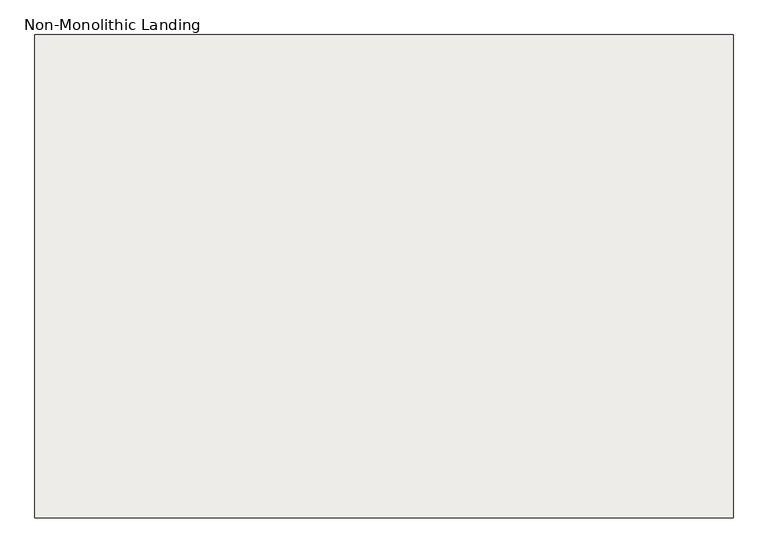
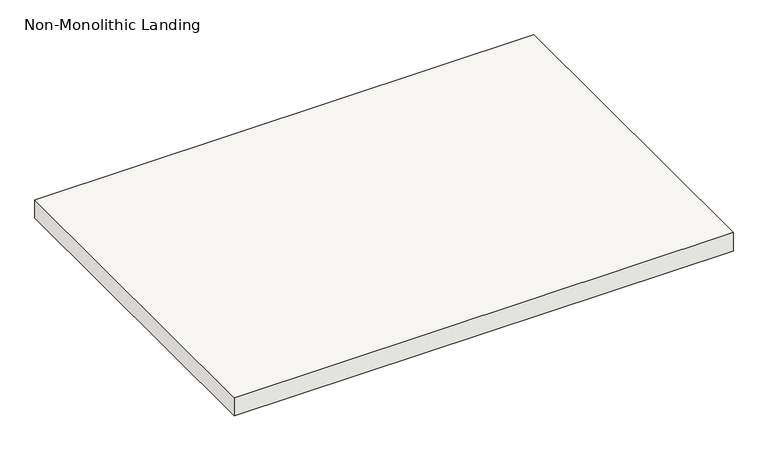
"""IFC4 building model written with IfcOpenShell, lengths in millimetres: slab geometry, Non-Monolithic Landing."""

from ifc_helpers import new_model, si_unit, frame, origin, place, context, project, spatial, polyline, outline, extrude, source, transform, mapped, element, save


def non_monolithic_landing_683afdd3(model_context):
    return source(origin(), model_context, "Body", "SweptSolid", [
        extrude(outline(polyline([(16198.3160021, 22299.7361774), (17519.1160021, 22299.7361774), (17519.1160021, 21385.3361774), (16198.3160021, 21385.3361774), (16198.3160021, 22299.7361774)])), frame((0.0, 0.0, 2126.3428571), z_axis=(0.0, 0.0, 1.0), x_axis=(1.0, 0.0, 0.0)), (0.0, 0.0, 1.0), 50.8),
    ])


if __name__ == "__main__":
    model = new_model("IFC4")
    model_context = context("Model", 3, world=origin())
    ifc_project = project(units=[si_unit("LENGTHUNIT", "METRE", prefix="MILLI")], contexts=[model_context])
    site = spatial("IfcSite", under=ifc_project)
    building = spatial("IfcBuilding", under=site)
    placement = place(None, origin())
    non_monolithic_landing_shape = non_monolithic_landing_683afdd3(model_context)
    element("IfcSlab", 1, ObjectType="Non-Monolithic Landing", at=placement, inside=building, context=model_context, shape_type="MappedRepresentation", body=[
        mapped(non_monolithic_landing_shape, transform((0.0, 0.0, 0.0), x_axis=(1.0, 0.0, 0.0), y_axis=(0.0, 1.0, 0.0), z_axis=(0.0, 0.0, 1.0))),
    ])
    save(model, "model.ifc")
